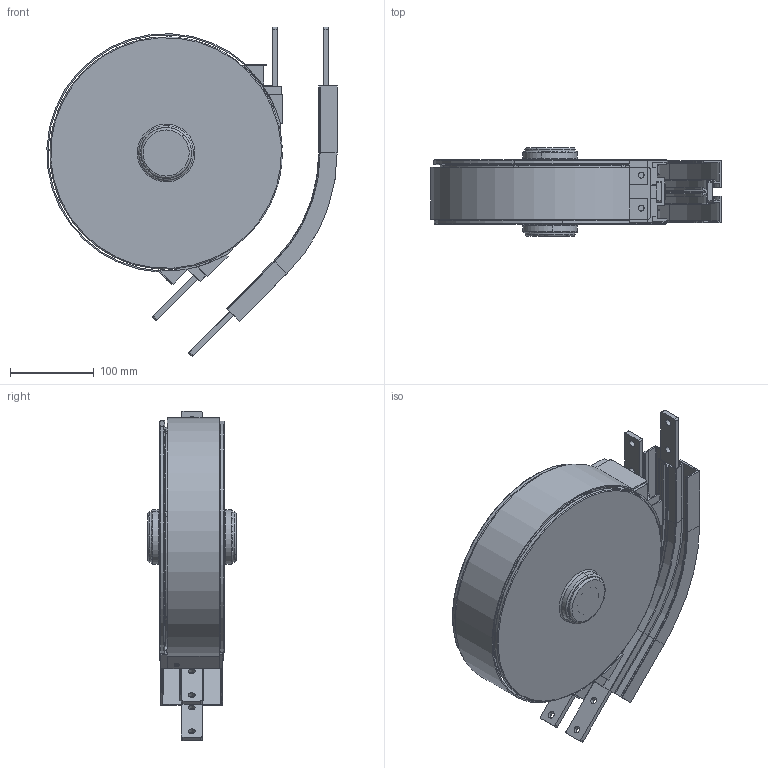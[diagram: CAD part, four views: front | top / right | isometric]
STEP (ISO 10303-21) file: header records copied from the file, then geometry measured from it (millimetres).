
FILE_DESCRIPTION (( 'STEP AP214' ), '1' );
FILE_NAME ('FMWB45R160A.STEP', '2012-04-03T13:03:49', ( 'gs' ), ( 'Microsoft' ), 'SwSTEP 2.0', 'SolidWorks 2011', '' );
FILE_SCHEMA (( 'AUTOMOTIVE_DESIGN' ));
Length unit declared in the file: millimetre
Products named in the file (12): WHCV-45_Default; FM-6004ZZ; FM-20 ExternalCirclip; FM-WH278063; FM-Courbe_45<Brut d''usinage>; FM-WH08002A-3_Default; FM-WHA-FM001_Default; FM-FM WH83001-0_Default; FM-WH08001A-3_Default; FM-FAEC-WH_Default; FM-FACS-25X140A_Default; FMWB45R160A
Assembly tree (24 placements, depth 2):
  FMWB45R160A
    FM-20 ExternalCirclip  x5
    FM-6004ZZ  x4
    FM-WH278063  x2
    FM-FM WH83001-0_Default  x2
    WHCV-45_Default
    FM-WH08001A-3_Default
    FM-FAEC-WH_Default  x2
    FM-FACS-25X140A_Default  x4
    FM-WH08002A-3_Default
    FM-Courbe_45<Brut d''usinage>
    FM-WHA-FM001_Default
Bounding box: 346.55 x 105.8 x 393.17 mm (x, y, z)
Volume: 1683150 mm3; surface area: 698907.7 mm2
Topology: 24 solids, 24 shells, 1230 faces, 3198 edges, 2086 vertices
Faces by surface type: plane 638, cylinder 397, bspline 88, torus 77, cone 30
Entity records: 26117 total; most frequent: CARTESIAN_POINT 8204, ORIENTED_EDGE 3506, DIRECTION 3413, EDGE_CURVE 1753, AXIS2_PLACEMENT_3D 1170, VERTEX_POINT 1126, VECTOR 1073, LINE 1073
